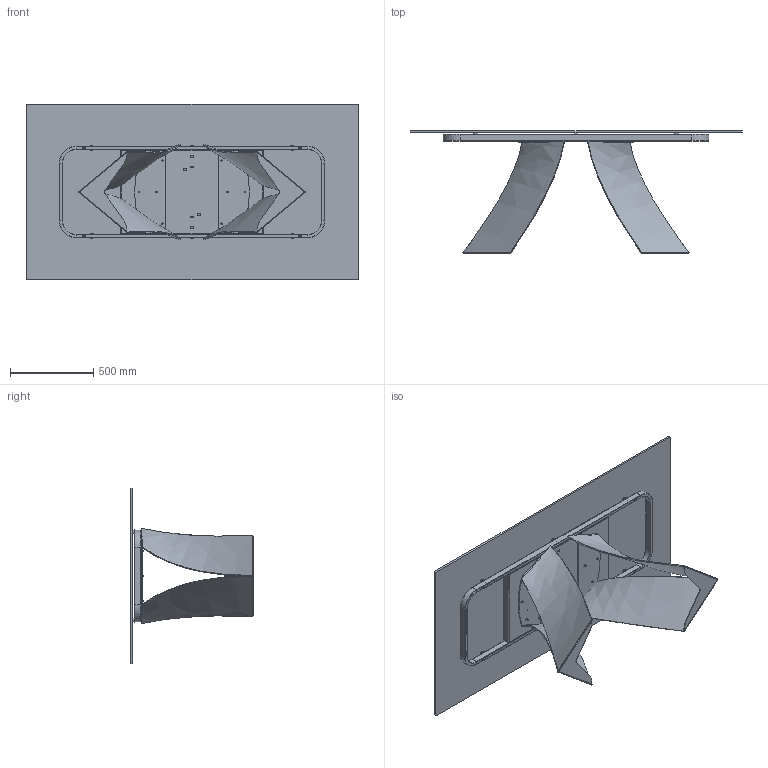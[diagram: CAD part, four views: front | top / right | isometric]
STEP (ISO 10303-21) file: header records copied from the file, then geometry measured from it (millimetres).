
FILE_DESCRIPTION (( 'STEP AP203' ), '1' );
FILE_NAME ('TW21G.STEP', '2024-08-07T12:37:03', ( '' ), ( '' ), 'SwSTEP 2.0', 'SolidWorks 2022', '' );
FILE_SCHEMA (( 'CONFIG_CONTROL_DESIGN' ));
Length unit declared in the file: millimetre
Products named in the file (9): 434070-00-PIEDINO TPV GOMMA NERO D. 30x8max18; TTAV01_02-01-VASSOIO IRRIGIDIMENTO TELAIO UNIVERSALE; C2XCRXX-00-Piani Rettangolari Cristallo_21 2000x1060; TWS000000BAS-00-TWIST BASE GREZZA; TEALIO TEMP PER MANUALE; rondella M8_8X16; TW21G; TUBOLARE TELAIO TEMP TWIST_Default<A macchina>; M8xXXmm_M8x20mm
Assembly tree (36 placements, depth 3):
  TW21G
    C2XCRXX-00-Piani Rettangolari Cristallo_21 2000x1060
    TEALIO TEMP PER MANUALE
      TUBOLARE TELAIO TEMP TWIST_Default<A macchina>
      TTAV01_02-01-VASSOIO IRRIGIDIMENTO TELAIO UNIVERSALE
    TWS000000BAS-00-TWIST BASE GREZZA  x2
    M8xXXmm_M8x20mm  x12
    rondella M8_8X16  x12
    434070-00-PIEDINO TPV GOMMA NERO D. 30x8max18  x6
Bounding box: 2000 x 737.37 x 1060 mm (x, y, z)
Volume: 35855849.2 mm3; surface area: 8725390.1 mm2
Topology: 56 solids, 56 shells, 1108 faces, 2582 edges, 1574 vertices
Faces by surface type: plane 428, cylinder 282, torus 200, cone 132, bspline 66
Entity records: 22455 total; most frequent: CARTESIAN_POINT 8921, DIRECTION 2509, ORIENTED_EDGE 2426, EDGE_CURVE 1213, AXIS2_PLACEMENT_3D 928, VERTEX_POINT 787, VECTOR 653, LINE 653
